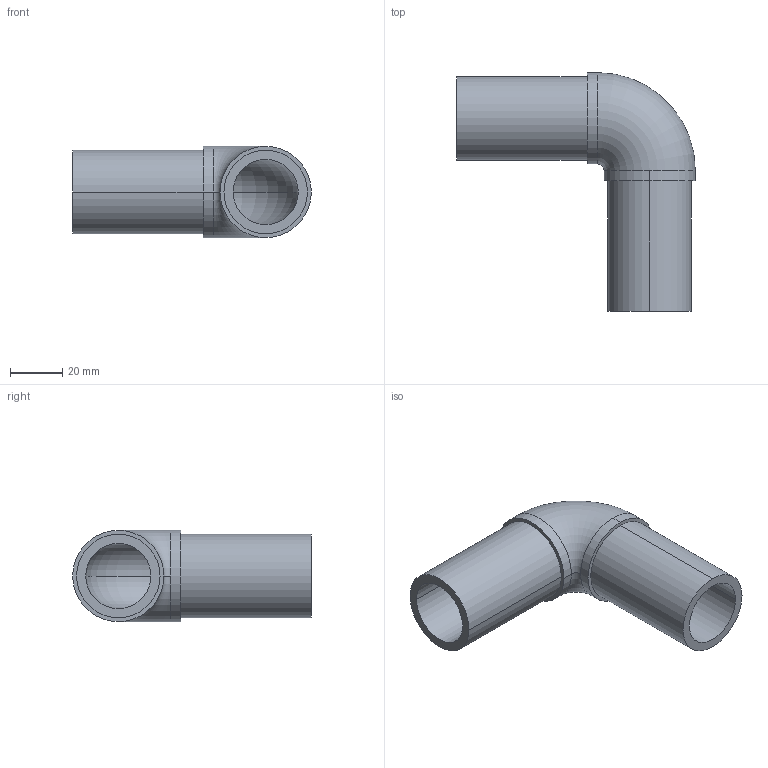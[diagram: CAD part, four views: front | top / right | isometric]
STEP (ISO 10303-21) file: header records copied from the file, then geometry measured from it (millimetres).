
FILE_DESCRIPTION (( 'STEP AP203' ), '1' );
FILE_NAME ('KP_3-32.step', '2011-08-08T11:39:49', ( '' ), ( '' ), 'SwSTEP 2.0', 'SolidWorks 2011', '' );
FILE_SCHEMA (( 'CONFIG_CONTROL_DESIGN' ));
Length unit declared in the file: millimetre
Products named in the file (1): KP_3-32
Bounding box: 91.5 x 91.5 x 35 mm (x, y, z)
Volume: 49911.7 mm3; surface area: 26279.3 mm2
Topology: 1 solids, 1 shells, 20 faces, 42 edges, 26 vertices
Faces by surface type: cylinder 12, torus 4, plane 4
Entity records: 629 total; most frequent: DIRECTION 114, CARTESIAN_POINT 89, ORIENTED_EDGE 84, AXIS2_PLACEMENT_3D 51, EDGE_CURVE 42, CIRCLE 30, VERTEX_POINT 26, EDGE_LOOP 24
